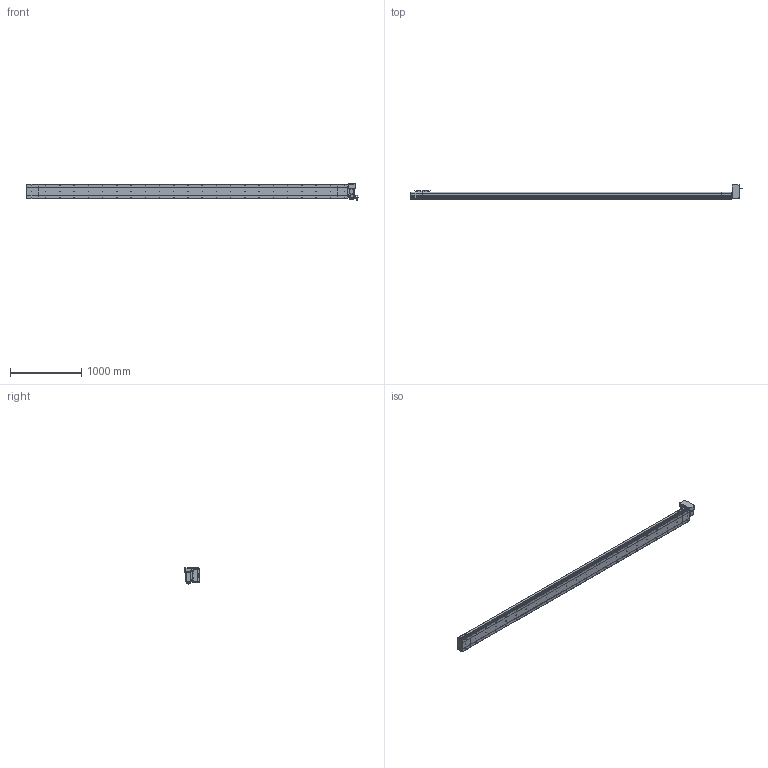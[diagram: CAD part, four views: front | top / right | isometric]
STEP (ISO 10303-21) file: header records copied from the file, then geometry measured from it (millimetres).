
FILE_DESCRIPTION (( 'STEP AP214' ), '1' );
FILE_NAME ('D20 CBH LT S4200.STEP', '2010-06-30T11:28:45', ( 'Conseil Régional Haute-Normandie' ), ( 'Conseil Régional Haute-Normandie' ), 'SwSTEP 2.0', 'SolidWorks 2010', '' );
FILE_SCHEMA (( 'AUTOMOTIVE_DESIGN' ));
Length unit declared in the file: millimetre
Products named in the file (31): codeur 90BLDC125-640; Support moteur LT_Default; Rondelle Cache D20 LT_Default; D20 CBH LT S4200; Corp Tail D20 LT_Default; Plaque De Serrage D20 LT_Default; Plaque de Bout Head D20 LT_Default; Head LT_Default; avant 90BLDC125A-640; Tail D20_Default; Couvercle LT_Default; corps 90BLDC125A-640; Moteur motionking 90BLDC125A-640; Conecteur2_Default; Corp D20 S4200_Default; vis M5 L30_Default; Corp Tail D20_Default; Chariot D20_Default; Glissiere_Default; Conecteur_Default; Corp S4200_Default; Couvercle S4200_Default; Cache Support Moteur LT_Default; vis M5 L47_Default; Support Chariot D20_Default; ecrou_Default; Plaque De Serrage D20_Default; Plaque de Bout Tail D20_Default; vis M5 L15_Default; Couvercle_Default
Assembly tree (66 placements, depth 4):
  D20 CBH LT S4200
    Tail D20_Default
      vis M5 L15_Default  x6
      Couvercle_Default
      Plaque De Serrage D20_Default
      Plaque de Bout Tail D20_Default
      Corp Tail D20_Default
    Corp D20 S4200_Default
      Corp S4200_Default
      Couvercle S4200_Default
    Chariot D20_Default
      vis M5 L15_Default  x8
      Chariot D20_Default
      Support Chariot D20_Default
      Glissiere_Default
    Head LT_Default
      vis M5 L30_Default  x4
      Rondelle Cache D20 LT_Default  x3
      vis M5 L15_Default  x12
      Corp Tail D20 LT_Default
      ecrou_Default  x4
      vis M5 L47_Default  x4
      Plaque De Serrage D20 LT_Default
      Cache Support Moteur LT_Default
      Moteur motionking 90BLDC125A-640
        Conecteur2_Default
        corps 90BLDC125A-640
        codeur 90BLDC125-640
        avant 90BLDC125A-640
        Conecteur_Default
      Couvercle LT_Default
      Plaque de Bout Head D20 LT_Default
      Support moteur LT_Default
Bounding box: 4663.45 x 202.5 x 229.7 mm (x, y, z)
Volume: 30745955.8 mm3; surface area: 5863674.6 mm2
Topology: 103 solids, 103 shells, 3882 faces, 9674 edges, 6292 vertices
Faces by surface type: plane 2131, bspline 806, cylinder 782, torus 91, cone 68, sphere 4
Entity records: 163510 total; most frequent: CARTESIAN_POINT 83692, ORIENTED_EDGE 15816, DIRECTION 12192, EDGE_CURVE 7908, VERTEX_POINT 5236, VECTOR 5012, LINE 5012, AXIS2_PLACEMENT_3D 3590
